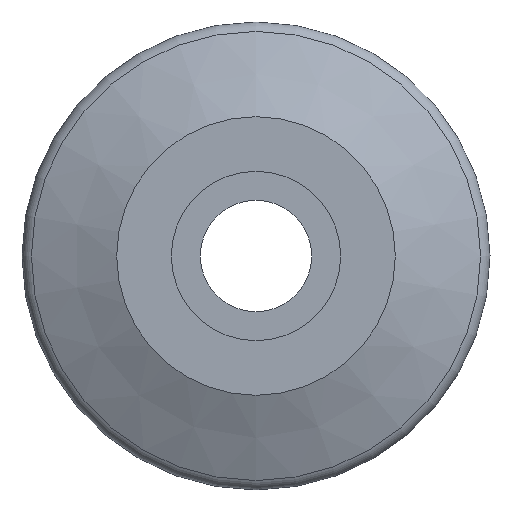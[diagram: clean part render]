
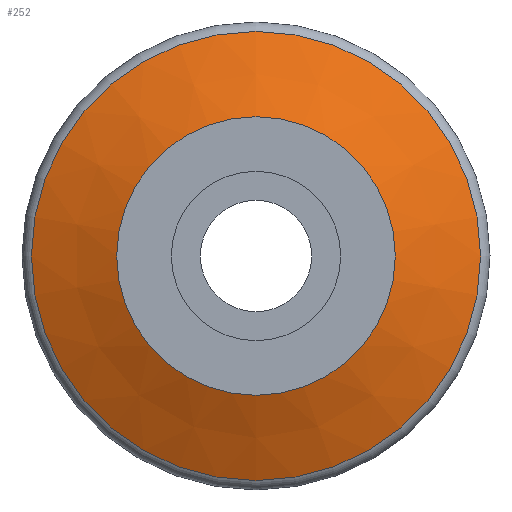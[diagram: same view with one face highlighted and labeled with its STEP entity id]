
A CAD part, front view. The second image highlights one B-rep face of the part: STEP entity #252.
In plain terms, the highlighted conical face has half-angle 66.02 degrees and reference radius 6.25 mm.
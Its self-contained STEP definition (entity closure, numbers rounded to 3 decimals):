
#2 = DIRECTION ( 'NONE',  ( 0., 1., 0. ) ) ;
#15 = AXIS2_PLACEMENT_3D ( 'NONE', #159, #210, #34 ) ;
#18 = VERTEX_POINT ( 'NONE', #318 ) ;
#34 = DIRECTION ( 'NONE',  ( 0., 0., 1. ) ) ;
#49 = CARTESIAN_POINT ( 'NONE',  ( 138.877, 182.355, 10.077 ) ) ;
#80 = VERTEX_POINT ( 'NONE', #49 ) ;
#109 = EDGE_CURVE ( 'NONE', #18, #18, #330, .T. ) ;
#112 = EDGE_LOOP ( 'NONE', ( #158 ) ) ;
#143 = CARTESIAN_POINT ( 'NONE',  ( 138.877, 180.653, 0. ) ) ;
#158 = ORIENTED_EDGE ( 'NONE', *, *, #109, .T. ) ;
#159 = CARTESIAN_POINT ( 'NONE',  ( 138.877, 182.355, 0. ) ) ;
#166 = AXIS2_PLACEMENT_3D ( 'NONE', #143, #2, #176 ) ;
#176 = DIRECTION ( 'NONE',  ( 0., 0., 1. ) ) ;
#184 = FACE_BOUND ( 'NONE', #112, .T. ) ;
#185 = EDGE_LOOP ( 'NONE', ( #276 ) ) ;
#210 = DIRECTION ( 'NONE',  ( 0., 1., 0. ) ) ;
#230 = AXIS2_PLACEMENT_3D ( 'NONE', #269, #239, #277 ) ;
#231 = EDGE_CURVE ( 'NONE', #80, #80, #294, .T. ) ;
#239 = DIRECTION ( 'NONE',  ( 0., 1., 0. ) ) ;
#252 = ADVANCED_FACE ( 'NONE', ( #184, #338 ), #257, .T. ) ;
#257 = CONICAL_SURFACE ( 'NONE', #230, 6.25, 1.152 ) ;
#269 = CARTESIAN_POINT ( 'NONE',  ( 138.877, 180.653, 0. ) ) ;
#276 = ORIENTED_EDGE ( 'NONE', *, *, #231, .F. ) ;
#277 = DIRECTION ( 'NONE',  ( 0., 0., 1. ) ) ;
#294 = CIRCLE ( 'NONE', #15, 10.077 ) ;
#318 = CARTESIAN_POINT ( 'NONE',  ( 138.877, 180.653, 6.25 ) ) ;
#330 = CIRCLE ( 'NONE', #166, 6.25 ) ;
#338 = FACE_OUTER_BOUND ( 'NONE', #185, .T. ) ;
